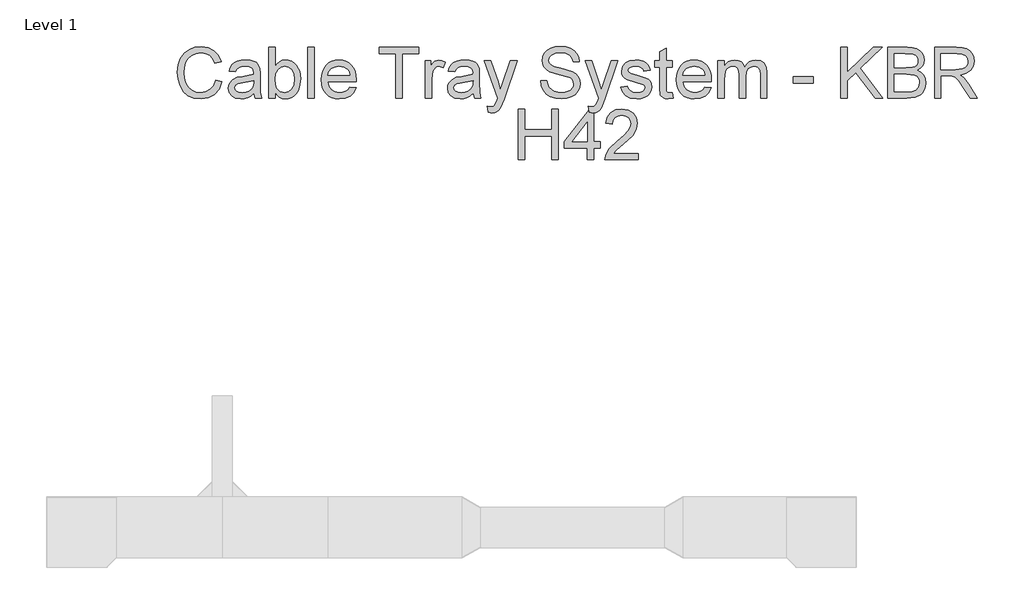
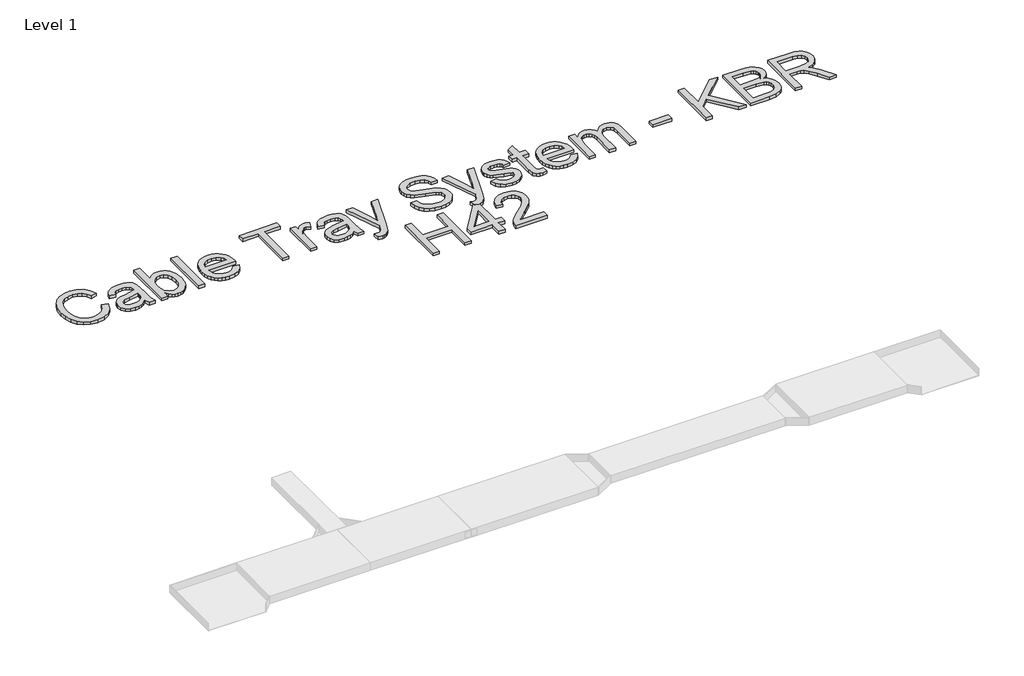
# One storey, part 11 of 32: 1 proxy.
"""IFC4 building model written with IfcOpenShell, lengths in millimetres."""

from ifc_helpers import new_model, si_unit, origin, origin_with_axes, place, context, project, spatial, polyline, outline, extrude, element, save

model = new_model("IFC4")

# Units and contexts
model_context = context("Model", 3, world=origin())
ifc_project = project(units=[si_unit("LENGTHUNIT", "METRE", prefix="MILLI")], contexts=[model_context])

# Site, building, storey
site = spatial("IfcSite", under=ifc_project)
building = spatial("IfcBuilding", under=site)
storey = spatial("IfcBuildingStorey", under=building, Name="Level 1", Elevation=0.0)

# Proxy
placement = place(None, origin())
element("IfcBuildingElementProxy", 1, Name="250mm Arial 3", ObjectType="250mm Arial 3", at=placement, inside=storey, context=model_context, shape_type="SweptSolid", body=[
    extrude(outline(polyline([(-19358.0296971, 60192.4106539), (-19326.6371002, 60184.31725), (-19341.1224538, 60147.7359841), (-19363.8544954, 60121.01089), (-19393.7142507, 60104.6631338), (-19429.5827452, 60099.2138818), (-19465.9953985, 60103.3372258), (-19494.9124562, 60115.7072579), (-19517.0773464, 60135.8947824), (-19533.2334973, 60163.4706036), (-19543.0973333, 60195.8902044), (-19546.3852787, 60230.6090677), (-19542.6681377, 60267.2286547), (-19531.5167147, 60298.8511778), (-19513.5134895, 60324.472626), (-19489.2409421, 60343.0889878), (-19460.4541759, 60354.4243517), (-19428.9082949, 60358.2028064), (-19394.4883357, 60353.3130415), (-19366.0311305, 60338.643747), (-19344.4257275, 60315.0992993), (-19330.5611748, 60283.584075), (-19361.9537717, 60276.1038078), (-19372.8369474, 60298.9967978), (-19387.7055114, 60314.7007605), (-19406.7434046, 60323.7828472), (-19430.1345682, 60326.8102095), (-19457.0972527, 60323.4532863), (-19479.2468145, 60313.3825166), (-19496.0544232, 60297.6555613), (-19506.9912483, 60277.3300811), (-19512.9923234, 60254.3527848), (-19514.9926817, 60230.6703814), (-19512.6244414, 60201.6690174), (-19505.5197204, 60176.5917281), (-19493.4102713, 60156.3965394), (-19476.0278471, 60142.0414774), (-19455.1888649, 60133.4652284), (-19432.7097421, 60130.6064787), (-19406.5058142, 60134.4998965), (-19384.6704849, 60146.1801498), (-19368.184773, 60165.5246114), (-19358.0296971, 60192.4106539)])), origin_with_axes(), (0.0, 0.0, 1.0), 15.0),
    extrude(outline(polyline([(-19169.6741156, 60126.6824041), (-19184.6729711, 60113.8218627), (-19200.1163507, 60105.406562), (-19216.3568079, 60100.7620518), (-19233.7468964, 60099.2138818), (-19259.9814812, 60102.938687), (-19279.333607, 60114.1131026), (-19291.2667792, 60131.0816596), (-19295.2445033, 60152.1888891), (-19293.7423185, 60165.2027147), (-19289.235764, 60177.0209238), (-19273.4474951, 60195.0471415), (-19251.4665459, 60205.3478374), (-19224.3045919, 60210.0689897), (-19169.8580566, 60220.8601949), (-19169.6741156, 60227.8499528), (-19171.8354223, 60241.8601254), (-19178.3193425, 60251.0265185), (-19192.8200245, 60257.8323354), (-19213.0228774, 60260.100941), (-19231.7235454, 60258.591092), (-19244.7833563, 60254.0615449), (-19253.6891662, 60245.6845653), (-19259.9278317, 60232.6324187), (-19291.3204287, 60236.5564933), (-19285.8711766, 60253.7243198), (-19277.7394517, 60267.2133262), (-19266.1664972, 60277.5293505), (-19250.3935567, 60285.1782303), (-19231.1027446, 60289.914711), (-19208.9761754, 60291.4935379), (-19187.7539828, 60290.098652), (-19170.9310457, 60285.9139943), (-19158.2467811, 60279.6216794), (-19149.4406059, 60271.9038217), (-19139.8143603, 60250.5973228), (-19138.2815187, 60223.1288005), (-19138.2815187, 60184.0719953), (-19136.6873634, 60129.5334896), (-19130.4333694, 60103.1379564), (-19161.8259664, 60103.1379564), (-19169.6741156, 60126.6824041)]), holes=[polyline([(-19169.6741156, 60189.4675979), (-19220.3192036, 60179.8413524), (-19247.3278734, 60174.7523181), (-19259.5599497, 60166.4749732), (-19263.8519064, 60154.3961811), (-19261.5143228, 60145.0611754), (-19254.5015723, 60137.4122956), (-19242.9669389, 60132.3079329), (-19227.0637068, 60130.6064787), (-19210.2024487, 60132.4842097), (-19195.3032279, 60138.1174028), (-19183.2244357, 60146.4177403), (-19174.8244635, 60156.2969047), (-19171.0996583, 60166.4749732), (-19169.8580566, 60180.5771164), (-19169.6741156, 60189.4675979)])]), origin_with_axes(), (0.0, 0.0, 1.0), 15.0),
    extrude(outline(polyline([(-19063.724101, 60103.1379564), (-19095.1166979, 60103.1379564), (-19095.1166979, 60354.2787318), (-19063.724101, 60354.2787318), (-19063.724101, 60261.1432733), (-19053.4004125, 60274.4215141), (-19041.7431518, 60283.9059718), (-19028.7523188, 60289.5966464), (-19014.4279136, 60291.4935379), (-18998.2564343, 60289.7844195), (-18982.974003, 60284.6570642), (-18969.4543397, 60276.4333687), (-18958.571164, 60265.4352299), (-18943.5799727, 60235.5448178), (-18938.1537133, 60198.1128248), (-18943.7715779, 60156.2049342), (-18950.7939087, 60139.2746982), (-18960.6251718, 60125.0269351), (-18972.4261365, 60113.7337243), (-18985.3575718, 60105.6671451), (-18999.4194779, 60100.8271976), (-19014.6118546, 60099.2138818), (-19029.4076086, 60101.2947143), (-19042.524901, 60107.5372119), (-19053.9637318, 60117.9413746), (-19063.724101, 60132.5072023), (-19063.724101, 60103.1379564)]), holes=[polyline([(-19063.724101, 60196.6412968), (-19061.5781227, 60170.4603615), (-19055.1401878, 60152.7407121), (-19038.6927969, 60136.140037), (-19017.3096559, 60130.6064787), (-18999.1914677, 60134.6838375), (-18983.709767, 60146.9159138), (-18973.0871744, 60167.2260656), (-18969.5463102, 60195.5376509), (-18972.9415545, 60224.2631033), (-18983.1272872, 60244.3433289), (-18998.1261427, 60256.161538), (-19015.9607553, 60260.100941), (-19034.0789435, 60256.0235822), (-19049.5606442, 60243.7915059), (-19060.1832368, 60223.8492361), (-19063.724101, 60196.6412968)])]), origin_with_axes(), (0.0, 0.0, 1.0), 15.0),
    extrude(outline(polyline([(-18902.8370418, 60103.1379564), (-18902.8370418, 60354.2787318), (-18871.4444448, 60354.2787318), (-18871.4444448, 60103.1379564), (-18902.8370418, 60103.1379564)])), origin_with_axes(), (0.0, 0.0, 1.0), 15.0),
    extrude(outline(polyline([(-18695.2289691, 60158.075001), (-18664.4495089, 60154.1509264), (-18675.5396182, 60130.9590323), (-18693.236275, 60113.6225933), (-18717.1409405, 60102.8160597), (-18746.8550758, 60099.2138818), (-18766.333661, 60100.7678), (-18783.6892606, 60105.4295547), (-18798.9218744, 60113.1991458), (-18812.0315026, 60124.0765733), (-18822.573621, 60137.759101), (-18830.1037056, 60153.9439928), (-18834.6217564, 60172.6312485), (-18836.1277733, 60193.8208682), (-18834.606428, 60215.7290074), (-18830.042392, 60235.0389801), (-18822.4356653, 60251.7507861), (-18811.7862479, 60265.8644256), (-18798.7111087, 60277.0771622), (-18783.8272163, 60285.0862598), (-18767.1345708, 60289.8917184), (-18748.6331721, 60291.4935379), (-18730.7276656, 60289.8955505), (-18714.5351097, 60285.1015883), (-18700.0555043, 60277.1116512), (-18687.2888494, 60265.9257393), (-18676.8674423, 60251.8427566), (-18669.42358, 60235.1616074), (-18664.9572627, 60215.8822916), (-18663.4684902, 60194.0048092), (-18663.6524312, 60185.5435233), (-18804.7351764, 60185.5435233), (-18799.3012527, 60162.0450609), (-18786.6783018, 60144.7699355), (-18768.4604788, 60134.1473429), (-18746.2419391, 60130.6064787), (-18729.5339652, 60132.2466193), (-18715.4624789, 60137.1670409), (-18704.0274802, 60145.6743121), (-18695.2289691, 60158.075001)]), holes=[polyline([(-18804.7351764, 60216.9361202), (-18694.8610871, 60216.9361202), (-18699.1070585, 60233.5214669), (-18707.4303887, 60245.3856612), (-18725.7325179, 60256.4221211), (-18748.7557994, 60260.100941), (-18769.9166784, 60257.1655493), (-18787.4140658, 60248.359374), (-18799.5771642, 60234.632777), (-18804.7351764, 60216.9361202)])]), origin_with_axes(), (0.0, 0.0, 1.0), 15.0),
    extrude(outline(polyline([(-18467.2647595, 60103.1379564), (-18467.2647595, 60322.8861348), (-18549.6703264, 60322.8861348), (-18549.6703264, 60354.2787318), (-18353.4665956, 60354.2787318), (-18353.4665956, 60322.8861348), (-18435.8721625, 60322.8861348), (-18435.8721625, 60103.1379564), (-18467.2647595, 60103.1379564)])), origin_with_axes(), (0.0, 0.0, 1.0), 15.0),
    extrude(outline(polyline([(-18322.0739987, 60103.1379564), (-18322.0739987, 60287.5694633), (-18294.6054764, 60287.5694633), (-18294.6054764, 60260.284882), (-18284.4580647, 60276.1038078), (-18275.1077307, 60285.423485), (-18255.4873576, 60291.4935379), (-18239.8523728, 60289.0716481), (-18223.9721333, 60281.8059787), (-18234.4567702, 60253.6630061), (-18256.5296899, 60260.100941), (-18265.9030166, 60258.5527709), (-18274.2799962, 60253.9082608), (-18285.5923675, 60236.7404343), (-18290.6814018, 60200.0748621), (-18290.6814018, 60103.1379564), (-18322.0739987, 60103.1379564)])), origin_with_axes(), (0.0, 0.0, 1.0), 15.0),
    extrude(outline(polyline([(-18086.6295218, 60126.6824041), (-18101.6283773, 60113.8218627), (-18117.0717569, 60105.406562), (-18133.3122141, 60100.7620518), (-18150.7023026, 60099.2138818), (-18176.9368874, 60102.938687), (-18196.2890132, 60114.1131026), (-18208.2221854, 60131.0816596), (-18212.1999095, 60152.1888891), (-18210.6977247, 60165.2027147), (-18206.1911702, 60177.0209238), (-18190.4029013, 60195.0471415), (-18168.4219521, 60205.3478374), (-18141.2599981, 60210.0689897), (-18086.8134628, 60220.8601949), (-18086.6295218, 60227.8499528), (-18088.7908285, 60241.8601254), (-18095.2747487, 60251.0265185), (-18109.7754307, 60257.8323354), (-18129.9782836, 60260.100941), (-18148.6789516, 60258.591092), (-18161.7387625, 60254.0615449), (-18170.6445724, 60245.6845653), (-18176.8832379, 60232.6324187), (-18208.2758349, 60236.5564933), (-18202.8265828, 60253.7243198), (-18194.6948579, 60267.2133262), (-18183.1219034, 60277.5293505), (-18167.3489629, 60285.1782303), (-18148.0581508, 60289.914711), (-18125.9315816, 60291.4935379), (-18104.709389, 60290.098652), (-18087.8864519, 60285.9139943), (-18075.2021873, 60279.6216794), (-18066.3960121, 60271.9038217), (-18056.7697665, 60250.5973228), (-18055.2369249, 60223.1288005), (-18055.2369249, 60184.0719953), (-18053.6427696, 60129.5334896), (-18047.3887756, 60103.1379564), (-18078.7813726, 60103.1379564), (-18086.6295218, 60126.6824041)]), holes=[polyline([(-18086.6295218, 60189.4675979), (-18137.2746098, 60179.8413524), (-18164.2832796, 60174.7523181), (-18176.5153559, 60166.4749732), (-18180.8073126, 60154.3961811), (-18178.469729, 60145.0611754), (-18171.4569785, 60137.4122956), (-18159.9223451, 60132.3079329), (-18144.019113, 60130.6064787), (-18127.1578549, 60132.4842097), (-18112.2586341, 60138.1174028), (-18100.1798419, 60146.4177403), (-18091.7798697, 60156.2969047), (-18088.0550645, 60166.4749732), (-18086.8134628, 60180.5771164), (-18086.6295218, 60189.4675979)])]), origin_with_axes(), (0.0, 0.0, 1.0), 15.0),
    extrude(outline(polyline([(-18012.0721041, 60032.5046133), (-18015.9961787, 60062.7322506), (-18000.0546256, 60059.9731356), (-17985.1554048, 60063.4373577), (-17976.0196686, 60073.0942601), (-17967.4357554, 60096.2095122), (-17964.9832087, 60103.8124067), (-18031.6924772, 60287.5694633), (-17998.5830976, 60287.5694633), (-17963.2051124, 60185.1756413), (-17950.8810656, 60144.2181125), (-17938.5570187, 60180.3931754), (-17902.1980149, 60287.5694633), (-17869.33389, 60287.5694633), (-17933.5292981, 60098.7233725), (-17950.2066152, 60057.7658437), (-17958.7445432, 60044.6907044), (-17968.416774, 60035.6316103), (-17979.6525033, 60030.3433066), (-17992.8809267, 60028.5805387), (-18012.0721041, 60032.5046133)])), origin_with_axes(), (0.0, 0.0, 1.0), 15.0),
    extrude(outline(polyline([(-17753.0831795, 60189.4675979), (-17721.6905826, 60189.4675979), (-17718.0884047, 60172.0468526), (-17711.5738277, 60158.0443442), (-17701.4110876, 60146.9312422), (-17686.8644204, 60138.1787164), (-17669.0834573, 60132.4995381), (-17649.2178295, 60130.6064787), (-17631.7281063, 60132.0396856), (-17616.4150183, 60136.3393065), (-17604.0066652, 60143.1451234), (-17595.2311467, 60152.0969186), (-17590.0118209, 60162.3746218), (-17588.2720457, 60173.1581628), (-17593.4837073, 60192.7478791), (-17601.423827, 60200.4963936), (-17614.820863, 60207.0033064), (-17660.5302009, 60218.990128), (-17709.7344177, 60234.4718287), (-17725.3617383, 60245.0331076), (-17736.4365192, 60257.8323354), (-17743.0354025, 60272.5936004), (-17745.2350303, 60289.0409913), (-17742.5142363, 60307.4274268), (-17734.3518546, 60324.5722607), (-17720.9624828, 60339.1035995), (-17702.5607188, 60349.64955), (-17680.4724707, 60356.0644923), (-17656.0236464, 60358.2028064), (-17629.5361428, 60355.9648576), (-17606.3595771, 60349.2510112), (-17587.3216838, 60338.1992229), (-17573.2501975, 60322.9474485), (-17564.3443876, 60304.4460498), (-17560.8035234, 60283.6453887), (-17592.1961203, 60283.6453887), (-17597.9596049, 60302.3767136), (-17609.9770834, 60315.8963769), (-17628.7543935, 60324.0817513), (-17654.7973731, 60326.8102095), (-17681.4534894, 60324.1124082), (-17699.7402902, 60316.0190043), (-17710.3168976, 60304.1088247), (-17713.8424333, 60289.9606963), (-17711.3439015, 60277.8972325), (-17703.8483058, 60268.1943449), (-17686.1286564, 60259.5184612), (-17652.5900811, 60250.6586365), (-17597.0398999, 60234.9010243), (-17579.1439737, 60223.5120109), (-17566.6589784, 60209.455853), (-17559.3243312, 60192.8858348), (-17556.8794487, 60173.9552405), (-17559.6922132, 60154.6031147), (-17568.1305064, 60136.4006201), (-17581.8494392, 60120.7349785), (-17600.504122, 60108.9934115), (-17622.9372595, 60101.6587642), (-17647.9915562, 60099.2138818), (-17678.7480238, 60101.8503694), (-17704.0629036, 60109.7598323), (-17724.2274355, 60122.9729273), (-17739.5328593, 60141.5203112), (-17749.3583743, 60164.1143971), (-17753.0831795, 60189.4675979)])), origin_with_axes(), (0.0, 0.0, 1.0), 15.0),
    extrude(outline(polyline([(-17513.714628, 60032.5046133), (-17517.6387026, 60062.7322506), (-17501.6971495, 60059.9731356), (-17486.7979287, 60063.4373577), (-17477.6621924, 60073.0942601), (-17469.0782792, 60096.2095122), (-17466.6257326, 60103.8124067), (-17533.335001, 60287.5694633), (-17500.2256215, 60287.5694633), (-17464.8476363, 60185.1756413), (-17452.5235894, 60144.2181125), (-17440.1995426, 60180.3931754), (-17403.8405387, 60287.5694633), (-17370.9764138, 60287.5694633), (-17435.171822, 60098.7233725), (-17451.8491391, 60057.7658437), (-17460.3870671, 60044.6907044), (-17470.0592979, 60035.6316103), (-17481.2950271, 60030.3433066), (-17494.5234506, 60028.5805387), (-17513.714628, 60032.5046133)])), origin_with_axes(), (0.0, 0.0, 1.0), 15.0),
    extrude(outline(polyline([(-17356.7516434, 60158.075001), (-17325.3590464, 60161.9990756), (-17320.4079679, 60148.5713828), (-17310.8277076, 60138.6998826), (-17296.5569519, 60132.6298297), (-17277.5343871, 60130.6064787), (-17258.7417485, 60132.4612171), (-17245.5286535, 60138.0254323), (-17237.7111611, 60146.0881793), (-17235.1053303, 60155.4385134), (-17237.7264895, 60163.4399468), (-17245.5899671, 60169.5406565), (-17277.9022691, 60178.4924517), (-17325.1751054, 60193.851525), (-17337.1389345, 60201.5693827), (-17345.807154, 60211.7857723), (-17351.0724651, 60223.8492361), (-17352.8275687, 60237.1083163), (-17347.1867115, 60260.4994798), (-17331.7969814, 60278.3724134), (-17311.8393831, 60287.6614338), (-17284.8307133, 60291.4935379), (-17264.3979342, 60289.9530321), (-17246.6322995, 60285.3315145), (-17232.3462153, 60278.0811735), (-17222.3520878, 60268.6541974), (-17215.7302119, 60256.3531432), (-17211.5608826, 60240.4805679), (-17242.9534795, 60236.5564933), (-17246.9158752, 60246.4356577), (-17254.7563602, 60253.8776039), (-17266.5515767, 60258.5451067), (-17282.3781667, 60260.100941), (-17300.4043844, 60258.6140846), (-17312.4218629, 60254.1535154), (-17319.1816946, 60247.7155805), (-17321.4349718, 60240.2966269), (-17317.6948382, 60231.1608907), (-17305.983928, 60224.2324465), (-17278.9446014, 60217.5492569), (-17232.8673815, 60202.7726634), (-17220.6966188, 60195.7062634), (-17211.4689121, 60186.0340326), (-17205.651778, 60173.7253142), (-17203.7127334, 60158.7494513), (-17205.9890032, 60143.2677507), (-17212.8178127, 60128.7057551), (-17223.9385789, 60116.2054314), (-17239.0907186, 60106.9087468), (-17257.3928478, 60101.137598), (-17277.9635827, 60099.2138818), (-17309.6167627, 60102.9233586), (-17332.7166863, 60114.0517889), (-17348.1370733, 60132.4765455), (-17356.7516434, 60158.075001)])), origin_with_axes(), (0.0, 0.0, 1.0), 15.0),
    extrude(outline(polyline([(-17101.6867934, 60129.3188917), (-17097.7627188, 60102.2182514), (-17121.2458528, 60099.2138818), (-17136.3136862, 60100.5167972), (-17147.5494154, 60104.4255434), (-17160.6705399, 60118.0984909), (-17164.4719872, 60153.7217307), (-17164.4719872, 60256.1768664), (-17188.0164349, 60256.1768664), (-17188.0164349, 60287.5694633), (-17164.4719872, 60287.5694633), (-17164.4719872, 60332.3897531), (-17133.0793903, 60350.8451665), (-17133.0793903, 60287.5694633), (-17101.6867934, 60287.5694633), (-17101.6867934, 60256.1768664), (-17133.0793903, 60256.1768664), (-17133.0793903, 60154.6414357), (-17131.4239213, 60138.4546279), (-17126.0589756, 60132.7218002), (-17115.3597409, 60130.6064787), (-17101.6867934, 60129.3188917)])), origin_with_axes(), (0.0, 0.0, 1.0), 15.0),
    extrude(outline(polyline([(-16941.1676161, 60158.075001), (-16910.3881559, 60154.1509264), (-16921.4782652, 60130.9590323), (-16939.174922, 60113.6225933), (-16963.0795875, 60102.8160597), (-16992.7937228, 60099.2138818), (-17012.272308, 60100.7678), (-17029.6279076, 60105.4295547), (-17044.8605214, 60113.1991458), (-17057.9701496, 60124.0765733), (-17068.512268, 60137.759101), (-17076.0423526, 60153.9439928), (-17080.5604034, 60172.6312485), (-17082.0664203, 60193.8208682), (-17080.545075, 60215.7290074), (-17075.981039, 60235.0389801), (-17068.3743123, 60251.7507861), (-17057.7248949, 60265.8644256), (-17044.6497557, 60277.0771622), (-17029.7658633, 60285.0862598), (-17013.0732178, 60289.8917184), (-16994.5718191, 60291.4935379), (-16976.6663126, 60289.8955505), (-16960.4737567, 60285.1015883), (-16945.9941513, 60277.1116512), (-16933.2274964, 60265.9257393), (-16922.8060893, 60251.8427566), (-16915.362227, 60235.1616074), (-16910.8959097, 60215.8822916), (-16909.4071372, 60194.0048092), (-16909.5910782, 60185.5435233), (-17050.6738234, 60185.5435233), (-17045.2398997, 60162.0450609), (-17032.6169488, 60144.7699355), (-17014.3991258, 60134.1473429), (-16992.1805861, 60130.6064787), (-16975.4726122, 60132.2466193), (-16961.4011259, 60137.1670409), (-16949.9661272, 60145.6743121), (-16941.1676161, 60158.075001)]), holes=[polyline([(-17050.6738234, 60216.9361202), (-16940.7997341, 60216.9361202), (-16945.0457055, 60233.5214669), (-16953.3690356, 60245.3856612), (-16971.6711649, 60256.4221211), (-16994.6944464, 60260.100941), (-17015.8553254, 60257.1655493), (-17033.3527128, 60248.359374), (-17045.5158112, 60234.632777), (-17050.6738234, 60216.9361202)])]), origin_with_axes(), (0.0, 0.0, 1.0), 15.0),
    extrude(outline(polyline([(-16878.0145403, 60103.1379564), (-16878.0145403, 60287.5694633), (-16846.6219434, 60287.5694633), (-16846.6219434, 60257.2191987), (-16837.1796388, 60271.1603935), (-16825.039533, 60282.0818902), (-16810.6154931, 60289.140626), (-16794.3213864, 60291.4935379), (-16776.86232, 60289.0946407), (-16762.8674758, 60281.8979492), (-16752.4134958, 60270.3786442), (-16745.577022, 60255.0119067), (-16734.1343591, 60270.9726204), (-16721.0822125, 60282.3731301), (-16706.4205822, 60289.213436), (-16690.1494681, 60291.4935379), (-16666.5513709, 60287.6997549), (-16649.0999688, 60276.3184056), (-16638.3164278, 60257.0429219), (-16634.7219142, 60229.5667354), (-16634.7219142, 60103.1379564), (-16666.1145111, 60103.1379564), (-16666.1145111, 60216.0777289), (-16669.0269102, 60242.2893211), (-16679.5728607, 60255.1958477), (-16697.507108, 60260.100941), (-16714.5139861, 60256.9586156), (-16728.3785388, 60247.5316395), (-16737.5985813, 60231.1762191), (-16740.6719288, 60207.248561), (-16740.6719288, 60103.1379564), (-16772.0645257, 60103.1379564), (-16772.0645257, 60219.5726079), (-16773.880943, 60237.3229141), (-16779.3301951, 60249.9841861), (-16788.9181196, 60257.5717523), (-16803.1505543, 60260.100941), (-16815.2446749, 60258.4148152), (-16826.3884336, 60253.3564378), (-16835.5854835, 60245.048436), (-16841.8394774, 60233.6134374), (-16846.6219434, 60196.1507875), (-16846.6219434, 60103.1379564), (-16878.0145403, 60103.1379564)])), origin_with_axes(), (0.0, 0.0, 1.0), 15.0),
    extrude(outline(polyline([(-16505.2274519, 60177.6953741), (-16505.2274519, 60209.087971), (-16407.1255865, 60209.087971), (-16407.1255865, 60177.6953741), (-16505.2274519, 60177.6953741)])), origin_with_axes(), (0.0, 0.0, 1.0), 15.0),
    extrude(outline(polyline([(-16269.7829749, 60103.1379564), (-16269.7829749, 60354.2787318), (-16238.390378, 60354.2787318), (-16238.390378, 60231.3448317), (-16109.6316797, 60354.2787318), (-16065.731095, 60354.2787318), (-16173.8270879, 60251.0265185), (-16061.8070203, 60103.1379564), (-16100.1893752, 60103.1379564), (-16196.0839486, 60229.8119901), (-16238.390378, 60189.4675979), (-16238.390378, 60103.1379564), (-16269.7829749, 60103.1379564)])), origin_with_axes(), (0.0, 0.0, 1.0), 15.0),
    extrude(outline(polyline([(-16038.2625726, 60103.1379564), (-16038.2625726, 60354.2787318), (-15942.4293129, 60354.2787318), (-15916.0721008, 60352.4316576), (-15895.4937017, 60346.890435), (-15879.7207611, 60337.5171084), (-15867.7799247, 60324.1737218), (-15860.2613364, 60308.4774234), (-15857.7551403, 60292.0453609), (-15859.8627976, 60276.9238781), (-15866.1857694, 60262.7067718), (-15876.770041, 60250.2677618), (-15891.6615976, 60240.4805679), (-15873.8729703, 60231.1915476), (-15860.7288531, 60217.0587476), (-15852.6124566, 60199.0172014), (-15849.9069911, 60178.0019424), (-15851.7540653, 60160.4892266), (-15857.2952879, 60144.2487694), (-15865.5649685, 60130.4378661), (-15875.5974171, 60120.2138123), (-15902.9126553, 60107.4605698), (-15943.1650769, 60103.1379564), (-16038.2625726, 60103.1379564)]), holes=[polyline([(-16006.8699757, 60252.2527918), (-15949.5416981, 60252.2527918), (-15916.0644366, 60254.9505931), (-15904.3458622, 60259.6027675), (-15895.9228973, 60266.5695328), (-15890.8415273, 60275.74359), (-15889.1477373, 60287.0176403), (-15890.7265642, 60297.9621297), (-15895.4630449, 60307.4964047), (-15903.1425815, 60314.9383509), (-15913.5505763, 60319.6058537), (-15953.8949684, 60322.8861348), (-16006.8699757, 60322.8861348), (-16006.8699757, 60252.2527918)]), polyline([(-16006.8699757, 60134.5305533), (-15942.4906266, 60134.5305533), (-15919.1914335, 60135.7568266), (-15899.47909, 60142.5933004), (-15886.4192791, 60156.5421594), (-15881.299588, 60177.6953741), (-15882.8017729, 60190.8164986), (-15887.3083273, 60202.0982131), (-15895.1794691, 60210.9197168), (-15906.7754162, 60216.6602087), (-15945.5563099, 60220.8601949), (-16006.8699757, 60220.8601949), (-16006.8699757, 60134.5305533)])]), origin_with_axes(), (0.0, 0.0, 1.0), 15.0),
    extrude(outline(polyline([(-15806.7421703, 60103.1379564), (-15806.7421703, 60354.2787318), (-15698.5235501, 60354.2787318), (-15669.4378799, 60352.5849418), (-15648.2770009, 60347.5035717), (-15632.8106287, 60338.1225808), (-15620.8084786, 60323.5299283), (-15613.1059493, 60305.4347327), (-15610.5384396, 60285.5461123), (-15614.7920752, 60260.8060482), (-15627.5529819, 60240.2966269), (-15649.2043701, 60225.2594504), (-15680.1294503, 60216.9361202), (-15662.2871736, 60203.5084274), (-15636.8420022, 60171.1961255), (-15594.9647685, 60103.1379564), (-15631.4463996, 60103.1379564), (-15664.1265836, 60155.1932587), (-15687.7323449, 60189.6515389), (-15704.3176915, 60205.9303172), (-15719.2475692, 60211.9083996), (-15737.4577279, 60213.0120456), (-15775.3495734, 60213.0120456), (-15775.3495734, 60103.1379564), (-15806.7421703, 60103.1379564)]), holes=[polyline([(-15775.3495734, 60244.4046425), (-15705.0841123, 60244.4046425), (-15669.2462747, 60248.8498833), (-15657.4587224, 60254.6286963), (-15648.8901376, 60263.0746538), (-15643.6708118, 60273.2910434), (-15641.9310365, 60284.3811527), (-15645.2496387, 60299.6942407), (-15655.2054452, 60312.033616), (-15672.3349506, 60320.1730051), (-15697.1746495, 60322.8861348), (-15775.3495734, 60322.8861348), (-15775.3495734, 60244.4046425)])]), origin_with_axes(), (0.0, 0.0, 1.0), 15.0),
    extrude(outline(polyline([(-17862.9572687, 59798.2009118), (-17862.9572687, 60049.3416872), (-17831.5646718, 60049.3416872), (-17831.5646718, 59947.3157472), (-17698.1461349, 59947.3157472), (-17698.1461349, 60049.3416872), (-17666.753538, 60049.3416872), (-17666.753538, 59798.2009118), (-17698.1461349, 59798.2009118), (-17698.1461349, 59915.9231502), (-17831.5646718, 59915.9231502), (-17831.5646718, 59798.2009118), (-17862.9572687, 59798.2009118)])), origin_with_axes(), (0.0, 0.0, 1.0), 15.0),
    extrude(outline(polyline([(-17521.5627772, 59798.2009118), (-17521.5627772, 59857.062031), (-17635.360941, 59857.062031), (-17635.360941, 59888.4546279), (-17513.714628, 60045.4176125), (-17490.1701803, 60045.4176125), (-17490.1701803, 59888.4546279), (-17458.7775834, 59888.4546279), (-17458.7775834, 59857.062031), (-17490.1701803, 59857.062031), (-17490.1701803, 59798.2009118), (-17521.5627772, 59798.2009118)]), holes=[polyline([(-17521.5627772, 59888.4546279), (-17521.5627772, 59985.4528473), (-17596.7333315, 59888.4546279), (-17521.5627772, 59888.4546279)])]), origin_with_axes(), (0.0, 0.0, 1.0), 15.0),
    extrude(outline(polyline([(-17270.4220018, 59829.5935087), (-17270.4220018, 59798.2009118), (-17435.2331357, 59798.2009118), (-17431.860884, 59819.8446358), (-17424.1200337, 59836.7595434), (-17412.792334, 59853.1686132), (-17373.4902741, 59889.5582739), (-17339.6144738, 59919.6479554), (-17319.2889935, 59941.8588309), (-17309.1262534, 59959.8850487), (-17305.7386734, 59977.4207571), (-17308.9346482, 59993.1400482), (-17318.5225727, 60006.2075232), (-17333.2608451, 60015.0136985), (-17351.9078638, 60017.9490902), (-17371.4899158, 60015.0826764), (-17386.7033691, 60006.4834347), (-17396.5212199, 59992.8258156), (-17399.9164641, 59974.7842695), (-17431.309061, 59978.7083441), (-17423.6985023, 60009.0739371), (-17407.2434472, 60031.2541557), (-17382.8022871, 60044.8198043), (-17351.2334134, 60049.3416872), (-17319.4346135, 60044.3139666), (-17295.0394387, 60029.2308048), (-17279.519417, 60006.6980325), (-17274.3460764, 59979.3214807), (-17279.92562, 59949.553696), (-17298.473004, 59918.7742357), (-17343.4465779, 59875.7626991), (-17379.5603271, 59845.5657187), (-17393.7237839, 59829.5935087), (-17270.4220018, 59829.5935087)])), origin_with_axes(), (0.0, 0.0, 1.0), 15.0),
])

save(model, "model.ifc")
